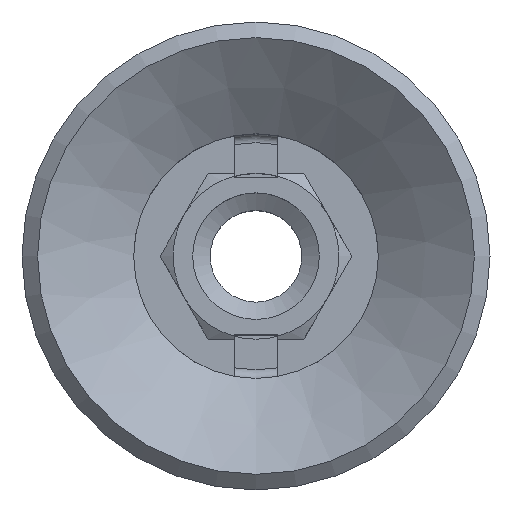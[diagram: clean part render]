
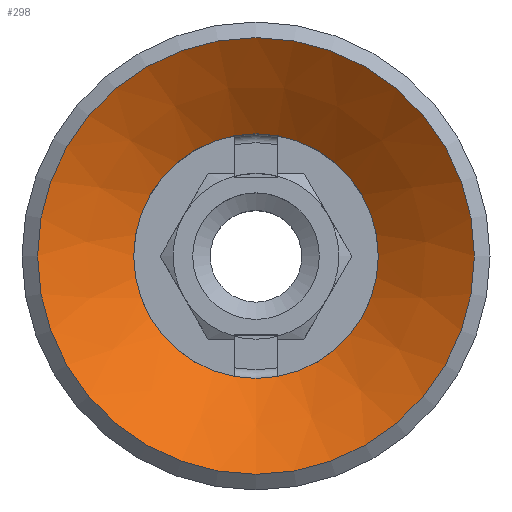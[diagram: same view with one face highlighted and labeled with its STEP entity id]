
A CAD part, top view. The second image highlights one B-rep face of the part: STEP entity #298.
In plain terms, the highlighted conical face has half-angle 54 degrees and reference radius 14 mm.
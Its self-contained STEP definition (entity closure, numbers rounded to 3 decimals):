
#298=ADVANCED_FACE('',(#645,#646),#647,.F.);
#326=EDGE_CURVE('',#692,#692,#693,.T.);
#328=EDGE_CURVE('',#695,#695,#696,.T.);
#645=FACE_BOUND('',#1079,.T.);
#646=FACE_OUTER_BOUND('',#1080,.T.);
#647=CONICAL_SURFACE('',#1081,14.0,0.942);
#692=VERTEX_POINT('',#1136);
#693=CIRCLE('',#1137,14.0);
#695=VERTEX_POINT('',#1140);
#696=CIRCLE('',#1141,25.0);
#1079=EDGE_LOOP('',(#1491));
#1080=EDGE_LOOP('',(#1492));
#1081=AXIS2_PLACEMENT_3D('',#1493,#1494,#1495);
#1136=CARTESIAN_POINT('',(0.0,7.992,-14.0));
#1137=AXIS2_PLACEMENT_3D('',#1547,#1548,#1549);
#1140=CARTESIAN_POINT('',(0.0,0.0,-25.0));
#1141=AXIS2_PLACEMENT_3D('',#1550,#1551,#1552);
#1491=ORIENTED_EDGE('',*,*,#326,.F.);
#1492=ORIENTED_EDGE('',*,*,#328,.T.);
#1493=CARTESIAN_POINT('',(0.0,7.992,0.0));
#1494=DIRECTION('',(0.0,-1.0,-0.0));
#1495=DIRECTION('',(0.0,0.0,-1.0));
#1547=CARTESIAN_POINT('',(0.0,7.992,0.0));
#1548=DIRECTION('',(0.0,-1.0,0.0));
#1549=DIRECTION('',(0.0,0.0,-1.0));
#1550=CARTESIAN_POINT('',(0.0,0.0,0.0));
#1551=DIRECTION('',(0.0,-1.0,0.0));
#1552=DIRECTION('',(0.0,0.0,-1.0));
